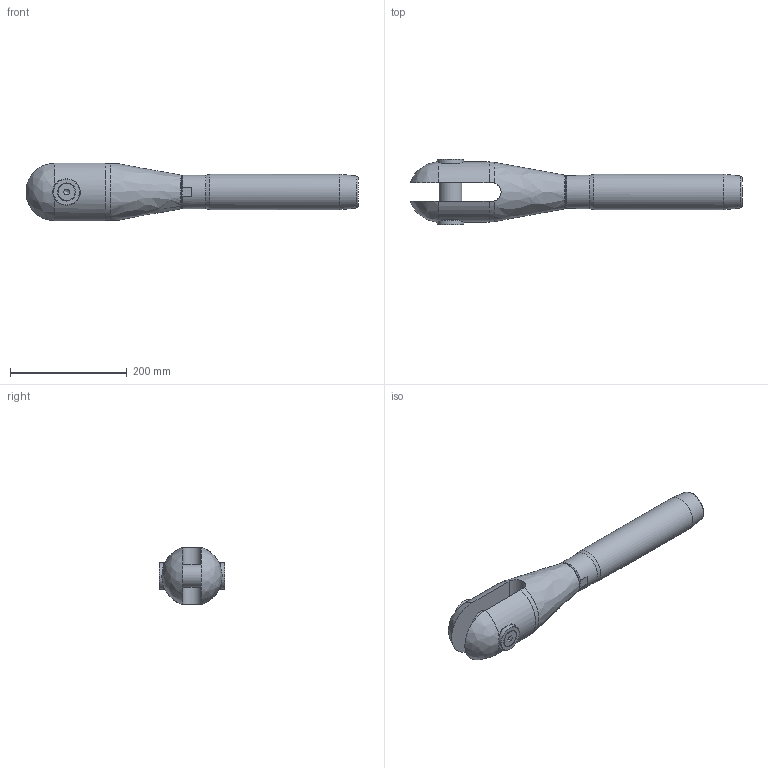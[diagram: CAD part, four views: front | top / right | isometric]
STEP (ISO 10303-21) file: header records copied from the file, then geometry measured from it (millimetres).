
FILE_DESCRIPTION(/* description */ (''),/* implementation_level */ '2;1');
FILE_NAME(/* name */ 'MAC-R 28_S355',/* time_stamp */ '2023-05-23T17:52:52+02:00',/* author */ (''),/* organization */ (''),/* preprocessor_version */ 'ST-DEVELOPER v16.5',/* originating_system */ 'Rhino 7.22',/* authorisation */ '');
FILE_SCHEMA (('CONFIG_CONTROL_DESIGN'));
Length unit declared in the file: millimetre
Products named in the file (1): Document
Bounding box: 567.86 x 112.49 x 97.9 mm (x, y, z)
Volume: 2121232.4 mm3; surface area: 223117.2 mm2
Topology: 7 solids, 7 shells, 87 faces, 245 edges, 171 vertices
Faces by surface type: plane 36, bspline 27, cylinder 24
Full cylindrical faces by diameter (mm): 13.835 x2, 16 x2, 17 x2, 29.01 x2, 39 x1, 41 x2, 45 x2, 48.752 x1, 52 x1, 57.2 x1, 60.5 x1
Entity records: 3523 total; most frequent: CARTESIAN_POINT 1967, ORIENTED_EDGE 480, EDGE_CURVE 240, VERTEX_POINT 171, EDGE_LOOP 99, B_SPLINE_CURVE_WITH_KNOTS 96, ADVANCED_FACE 87, FACE_OUTER_BOUND 87
